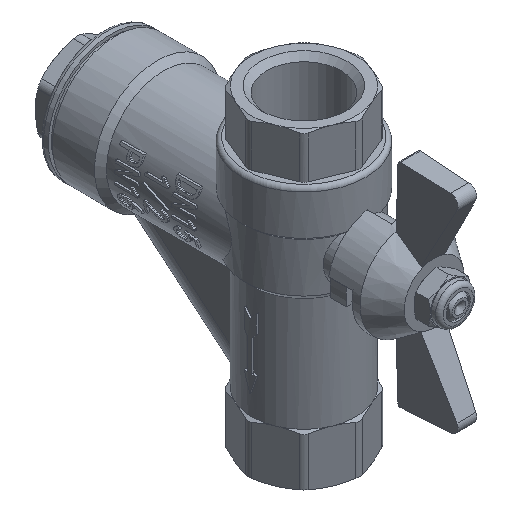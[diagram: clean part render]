
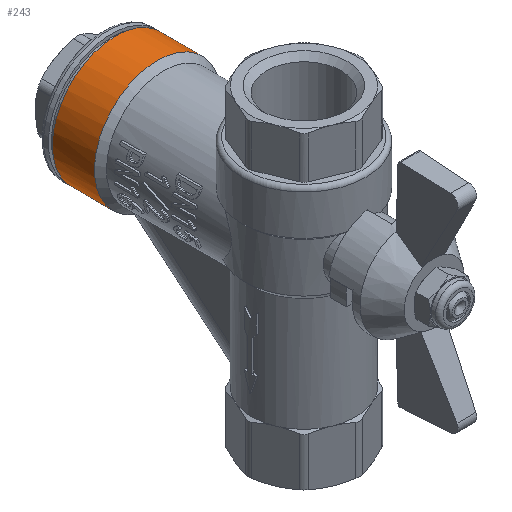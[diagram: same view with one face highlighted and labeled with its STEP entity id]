
A CAD part, isometric view. The second image highlights one B-rep face of the part: STEP entity #243.
In plain terms, the highlighted cylindrical face has radius 15.75 mm (diameter 31.5 mm), a full revolution.
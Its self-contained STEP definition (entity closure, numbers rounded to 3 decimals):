
#243=ADVANCED_FACE('',(#2084,#2086),#2088,.T.);
#2084=FACE_BOUND('',#2085,.T.);
#2085=EDGE_LOOP('',(#6197,#6198,#6199));
#2086=FACE_OUTER_BOUND('',#2087,.T.);
#2087=EDGE_LOOP('',(#6200));
#2088=CYLINDRICAL_SURFACE('',#2089,15.75);
#2089=AXIS2_PLACEMENT_3D('',#2090,#2091,#2092);
#2090=CARTESIAN_POINT('',(0.,36.5,0.));
#2091=DIRECTION('',(0.,1.,0.));
#2092=DIRECTION('',(0.,0.,1.));
#6197=ORIENTED_EDGE('',*,*,#8768,.F.);
#6198=ORIENTED_EDGE('',*,*,#8773,.T.);
#6199=ORIENTED_EDGE('',*,*,#8772,.T.);
#6200=ORIENTED_EDGE('',*,*,#9159,.F.);
#8768=EDGE_CURVE('',#10838,#10840,#10841,.T.);
#8772=EDGE_CURVE('',#10845,#10840,#10846,.T.);
#8773=EDGE_CURVE('',#10838,#10845,#10847,.T.);
#9159=EDGE_CURVE('',#11466,#11466,#11467,.T.);
#10838=VERTEX_POINT('',#15717);
#10840=VERTEX_POINT('',#15743);
#10841=B_SPLINE_CURVE_WITH_KNOTS('',3,
(#15744,#15745,#15746,#15747,#15748,#15749,#15750,#15751,#15752,#15753,#15754,#15755,
#15756,#15757,#15758,#15759,#15760,#15761,#15762,#15763,#15764,#15765,#15766,#15767,
#15768,#15769,#15770,#15771,#15772,#15773,#15774,#15775,#15776,#15777,#15778,#15779,
#15780,#15781,#15782,#15783,#15784),
.UNSPECIFIED.,.F.,.F.,
(4,1,1,1,1,1,1,1,1,1,1,1,1,1,1,1,1,1,1,1,1,1,1,1,1,1,1,1,1,1,1,1,1,1,1,1,1,1,4),
(0.,0.019,0.039,0.058,0.077,0.096,
0.116,0.135,0.154,0.174,0.195,
0.219,0.247,0.277,0.325,0.388,
0.466,0.5,0.543,0.605,0.651,
0.68,0.706,0.727,0.747,0.769,
0.791,0.813,0.834,0.854,0.875,
0.894,0.913,0.932,0.946,0.96,
0.973,0.987,1.),
.UNSPECIFIED.);
#10845=VERTEX_POINT('',#15816);
#10846=CIRCLE('',#15817,15.75);
#10847=CIRCLE('',#15821,15.75);
#11466=VERTEX_POINT('',#17871);
#11467=CIRCLE('',#17872,15.75);
#15717=CARTESIAN_POINT('',(-4.397,36.5,-15.124));
#15743=CARTESIAN_POINT('',(4.397,36.5,-15.124));
#15744=CARTESIAN_POINT('',(-4.397,36.5,-15.124));
#15745=CARTESIAN_POINT('',(-4.347,36.527,-15.138));
#15746=CARTESIAN_POINT('',(-4.244,36.579,-15.168));
#15747=CARTESIAN_POINT('',(-4.089,36.655,-15.21));
#15748=CARTESIAN_POINT('',(-3.931,36.727,-15.252));
#15749=CARTESIAN_POINT('',(-3.772,36.796,-15.292));
#15750=CARTESIAN_POINT('',(-3.611,36.863,-15.331));
#15751=CARTESIAN_POINT('',(-3.449,36.926,-15.368));
#15752=CARTESIAN_POINT('',(-3.285,36.986,-15.404));
#15753=CARTESIAN_POINT('',(-3.119,37.043,-15.438));
#15754=CARTESIAN_POINT('',(-2.946,37.099,-15.472));
#15755=CARTESIAN_POINT('',(-2.759,37.156,-15.507));
#15756=CARTESIAN_POINT('',(-2.544,37.215,-15.544));
#15757=CARTESIAN_POINT('',(-2.302,37.276,-15.582));
#15758=CARTESIAN_POINT('',(-1.987,37.345,-15.626));
#15759=CARTESIAN_POINT('',(-1.563,37.423,-15.675));
#15760=CARTESIAN_POINT('',(-0.989,37.498,-15.723));
#15761=CARTESIAN_POINT('',(-0.451,37.533,-15.747));
#15762=CARTESIAN_POINT('',(0.028,37.541,-15.751));
#15763=CARTESIAN_POINT('',(0.457,37.532,-15.746));
#15764=CARTESIAN_POINT('',(0.921,37.501,-15.726));
#15765=CARTESIAN_POINT('',(1.336,37.453,-15.694));
#15766=CARTESIAN_POINT('',(1.642,37.407,-15.665));
#15767=CARTESIAN_POINT('',(1.872,37.366,-15.639));
#15768=CARTESIAN_POINT('',(2.073,37.326,-15.613));
#15769=CARTESIAN_POINT('',(2.261,37.285,-15.587));
#15770=CARTESIAN_POINT('',(2.451,37.239,-15.559));
#15771=CARTESIAN_POINT('',(2.646,37.187,-15.527));
#15772=CARTESIAN_POINT('',(2.835,37.133,-15.493));
#15773=CARTESIAN_POINT('',(3.018,37.077,-15.459));
#15774=CARTESIAN_POINT('',(3.194,37.018,-15.423));
#15775=CARTESIAN_POINT('',(3.365,36.957,-15.387));
#15776=CARTESIAN_POINT('',(3.53,36.895,-15.35));
#15777=CARTESIAN_POINT('',(3.69,36.831,-15.312));
#15778=CARTESIAN_POINT('',(3.834,36.77,-15.277));
#15779=CARTESIAN_POINT('',(3.961,36.713,-15.244));
#15780=CARTESIAN_POINT('',(4.073,36.662,-15.214));
#15781=CARTESIAN_POINT('',(4.183,36.609,-15.185));
#15782=CARTESIAN_POINT('',(4.291,36.555,-15.154));
#15783=CARTESIAN_POINT('',(4.362,36.519,-15.134));
#15784=CARTESIAN_POINT('',(4.397,36.5,-15.124));
#15816=CARTESIAN_POINT('',(0.,36.5,15.75));
#15817=AXIS2_PLACEMENT_3D('',#15818,#15819,#15820);
#15818=CARTESIAN_POINT('',(0.,36.5,0.));
#15819=DIRECTION('',(0.,1.,0.));
#15820=DIRECTION('',(0.,0.,1.));
#15821=AXIS2_PLACEMENT_3D('',#15822,#15823,#15824);
#15822=CARTESIAN_POINT('',(0.,36.5,0.));
#15823=DIRECTION('',(0.,1.,0.));
#15824=DIRECTION('',(-0.279,0.,-0.96));
#17871=CARTESIAN_POINT('',(0.,47.,15.75));
#17872=AXIS2_PLACEMENT_3D('',#17873,#17874,#17875);
#17873=CARTESIAN_POINT('',(0.,47.,0.));
#17874=DIRECTION('',(0.,1.,0.));
#17875=DIRECTION('',(0.,0.,1.));
